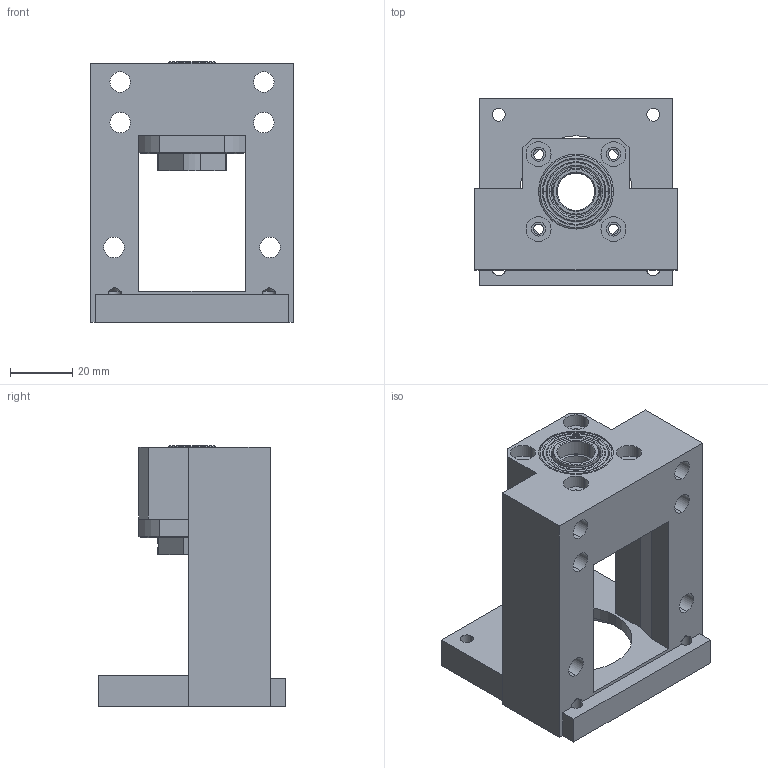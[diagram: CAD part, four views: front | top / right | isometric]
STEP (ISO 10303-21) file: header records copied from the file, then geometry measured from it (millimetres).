
FILE_DESCRIPTION((''),'2;1');
FILE_NAME('M60D-BK12-C_ASM','2019-05-23T',('ASUS'),(''),'PRO/ENGINEER BY PARAMETRIC TECHNOLOGY CORPORATION, 2010280','PRO/ENGINEER BY PARAMETRIC TECHNOLOGY CORPORATION, 2010280','');
FILE_SCHEMA(('CONFIG_CONTROL_DESIGN'));
Length unit declared in the file: millimetre
Products named in the file (24): PRT0001; PRT0002; PRT0003; PRT0004; PRT0005; PRT0006; PRT0007; PRT0008; PRT0009; PRT0010; PRT0011; PRT0012; PRT0013; PRT0014; 7001A_ASM_ASM_ASM; PRT0015; PRT0016; PRT0017; PRT0018; MBCB12-D_STEP_ASM_ASM_ASM; M60D-BK12-C_ASM_ASM_ASM; BK12-04; ASM0001_ASM_ASM; M60D-BK12-C_ASM
Assembly tree (25 placements, depth 6):
  M60D-BK12-C_ASM
    ASM0001_ASM_ASM
      M60D-BK12-C_ASM_ASM_ASM
        MBCB12-D_STEP_ASM_ASM_ASM
          7001A_ASM_ASM_ASM  x2
            PRT0001
            PRT0002
            PRT0003
            PRT0004
            PRT0005
            PRT0006
            PRT0007
            PRT0008
            PRT0009
            PRT0010
            PRT0011
            PRT0012
            PRT0013
            PRT0014
          PRT0015
          PRT0016  x2
          PRT0017
          PRT0018
      BK12-04
Bounding box: 65 x 60 x 83.5 mm (x, y, z)
Volume: 100872.2 mm3; surface area: 44431.1 mm2
Topology: 34 solids, 34 shells, 433 faces, 1161 edges, 711 vertices
Faces by surface type: cylinder 114, sphere 96, torus 92, plane 79, cone 52
Entity records: 10272 total; most frequent: DIRECTION 1988, CARTESIAN_POINT 1842, ORIENTED_EDGE 1514, AXIS2_PLACEMENT_3D 873, EDGE_CURVE 757, VERTEX_POINT 503, CIRCLE 493, EDGE_LOOP 378
